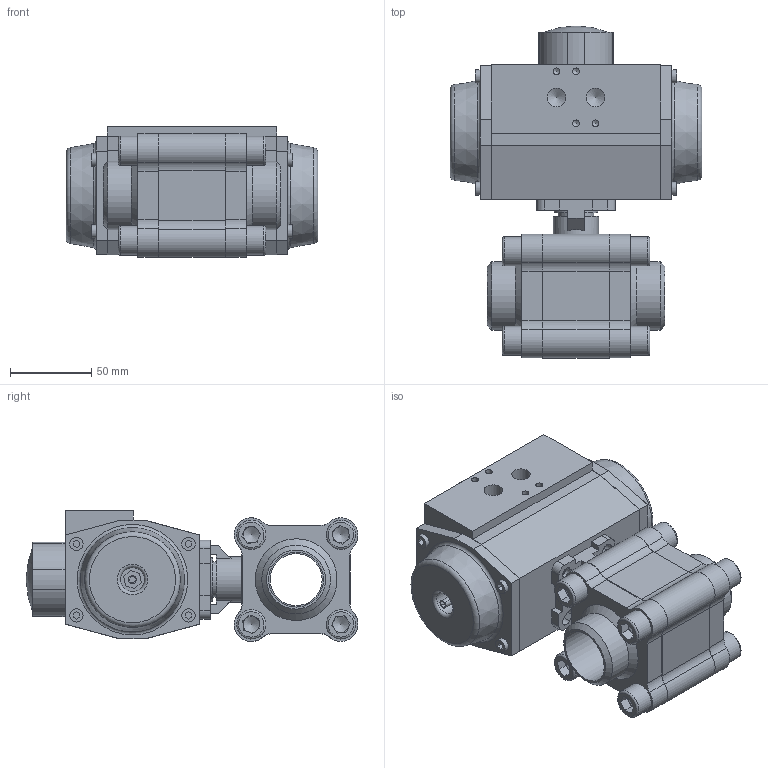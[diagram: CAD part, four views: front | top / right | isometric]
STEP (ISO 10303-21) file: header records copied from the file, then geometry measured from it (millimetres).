
FILE_DESCRIPTION (( 'STEP AP214' ), '1' );
FILE_NAME ('S33D BW DN32 + AP2.STEP', '2025-08-13T08:26:46', ( '' ), ( '' ), 'SwSTEP 2.0', 'SolidWorks 2021', '' );
FILE_SCHEMA (( 'AUTOMOTIVE_DESIGN' ));
Length unit declared in the file: millimetre
Products named in the file (6): S33D Flens Buttweld DN32; S33D DN32 Buttweld; S33D KK DN32 PN100; socket head cap screw_din_DIN 912 M12 x 30 --- 30N; S33D BW DN32 + AP2; AP2_Default<As Machined>
Assembly tree (13 placements, depth 3):
  S33D BW DN32 + AP2
    S33D DN32 Buttweld
      S33D KK DN32 PN100
      S33D Flens Buttweld DN32  x2
      socket head cap screw_din_DIN 912 M12 x 30 --- 30N  x8
    AP2_Default<As Machined>
Bounding box: 155 x 204.25 x 80.56 mm (x, y, z)
Volume: 1183336.4 mm3; surface area: 168661.6 mm2
Topology: 19 solids, 19 shells, 532 faces, 1281 edges, 826 vertices
Faces by surface type: plane 355, cylinder 118, cone 36, torus 22, sphere 1
Full cylindrical faces by diameter (mm): 4.2 x12, 5 x2, 8.2 x8, 10.5 x4, 11.445 x2, 12 x8, 12.5 x8, 14.8 x2, 18 x8, 22 x1, 25 x1, 27 x1, 28 x1, 30 x1, 32 x1, 32.5 x1, 33.8 x2, 42.3 x2, 45.8 x1
Entity records: 11081 total; most frequent: DIRECTION 1739, CARTESIAN_POINT 1736, ORIENTED_EDGE 1586, EDGE_CURVE 793, LINE 593, VECTOR 593, AXIS2_PLACEMENT_3D 573, VERTEX_POINT 562
